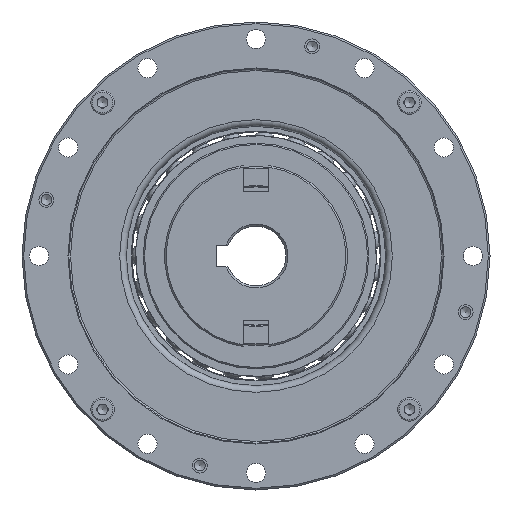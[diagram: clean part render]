
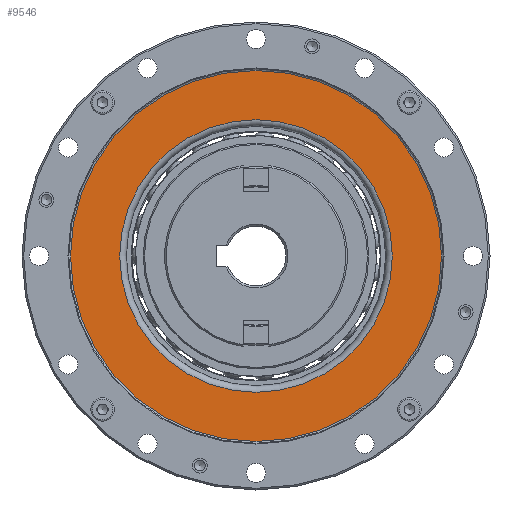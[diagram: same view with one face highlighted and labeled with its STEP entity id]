
A CAD part, left-side view. The second image highlights one B-rep face of the part: STEP entity #9546.
In plain terms, the highlighted planar face has unit normal (-1, 0, 0).
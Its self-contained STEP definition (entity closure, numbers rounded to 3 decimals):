
#275 = CIRCLE ( 'NONE', #11968, 43.6 ) ;
#1288 = DIRECTION ( 'NONE',  ( 0., 1., 0. ) ) ;
#1322 = AXIS2_PLACEMENT_3D ( 'NONE', #7755, #9030, #5119 ) ;
#2124 = AXIS2_PLACEMENT_3D ( 'NONE', #6708, #5673, #12864 ) ;
#2286 = EDGE_LOOP ( 'NONE', ( #3231 ) ) ;
#3231 = ORIENTED_EDGE ( 'NONE', *, *, #14076, .T. ) ;
#3744 = CARTESIAN_POINT ( 'NONE',  ( -26.569, 0., 0. ) ) ;
#3793 = EDGE_LOOP ( 'NONE', ( #8413 ) ) ;
#4433 = EDGE_CURVE ( 'NONE', #9280, #9280, #11536, .T. ) ;
#5119 = DIRECTION ( 'NONE',  ( 0., 1., 0. ) ) ;
#5673 = DIRECTION ( 'NONE',  ( 1., 0., 0. ) ) ;
#5789 = CARTESIAN_POINT ( 'NONE',  ( -26.569, 43.6, 0. ) ) ;
#6708 = CARTESIAN_POINT ( 'NONE',  ( -26.569, 0., 30.536 ) ) ;
#7755 = CARTESIAN_POINT ( 'NONE',  ( -26.569, 0., 0. ) ) ;
#8413 = ORIENTED_EDGE ( 'NONE', *, *, #4433, .T. ) ;
#8704 = DIRECTION ( 'NONE',  ( -1., 0., 0. ) ) ;
#9030 = DIRECTION ( 'NONE',  ( 1., 0., 0. ) ) ;
#9095 = FACE_OUTER_BOUND ( 'NONE', #2286, .T. ) ;
#9280 = VERTEX_POINT ( 'NONE', #14176 ) ;
#9546 = ADVANCED_FACE ( 'NONE', ( #15362, #9095 ), #13013, .F. ) ;
#11536 = CIRCLE ( 'NONE', #1322, 32.036 ) ;
#11968 = AXIS2_PLACEMENT_3D ( 'NONE', #3744, #8704, #1288 ) ;
#12864 = DIRECTION ( 'NONE',  ( 0., 1., 0. ) ) ;
#13013 = PLANE ( 'NONE',  #2124 ) ;
#14076 = EDGE_CURVE ( 'NONE', #14204, #14204, #275, .T. ) ;
#14176 = CARTESIAN_POINT ( 'NONE',  ( -26.569, 32.036, 0. ) ) ;
#14204 = VERTEX_POINT ( 'NONE', #5789 ) ;
#15362 = FACE_BOUND ( 'NONE', #3793, .T. ) ;
